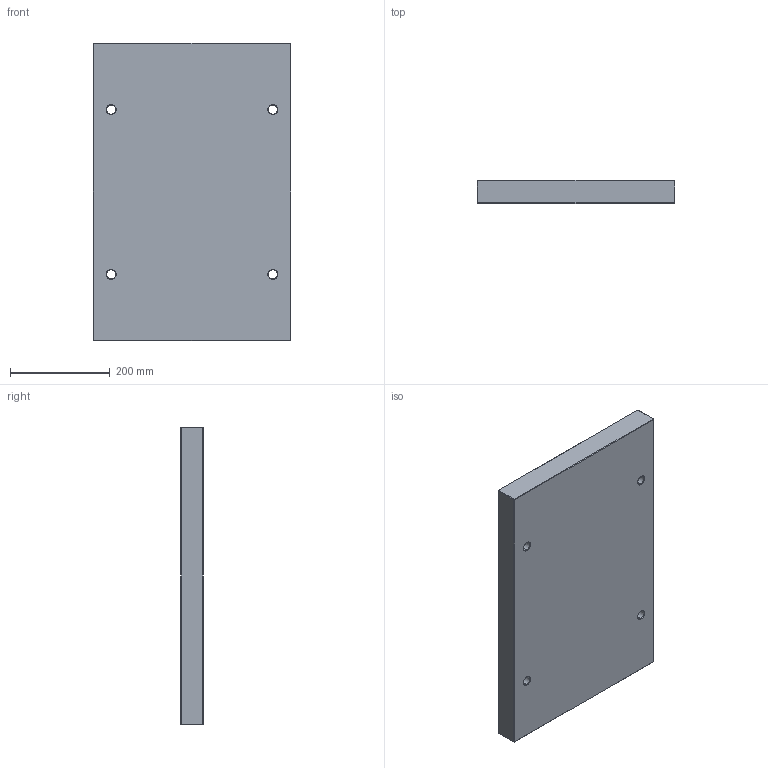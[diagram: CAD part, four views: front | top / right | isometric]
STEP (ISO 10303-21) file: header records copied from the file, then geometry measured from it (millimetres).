
FILE_DESCRIPTION (( 'STEP AP214' ), '1' );
FILE_NAME ('PBAV-396x496x46.STEP', '2020-03-18T17:22:31', ( 'August' ), ( '' ), 'SwSTEP 2.0', 'SolidWorks 2018', '' );
FILE_SCHEMA (( 'AUTOMOTIVE_DESIGN' ));
Length unit declared in the file: millimetre
Products named in the file (1): PBAV-396x496x46
Bounding box: 396 x 46 x 596 mm (x, y, z)
Volume: 10787653.1 mm3; surface area: 570726.1 mm2
Topology: 1 solids, 1 shells, 62 faces, 128 edges, 72 vertices
Faces by surface type: plane 30, cone 16, cylinder 16
Entity records: 1650 total; most frequent: DIRECTION 302, CARTESIAN_POINT 263, ORIENTED_EDGE 256, EDGE_CURVE 128, AXIS2_PLACEMENT_3D 111, LINE 80, VECTOR 80, EDGE_LOOP 74
